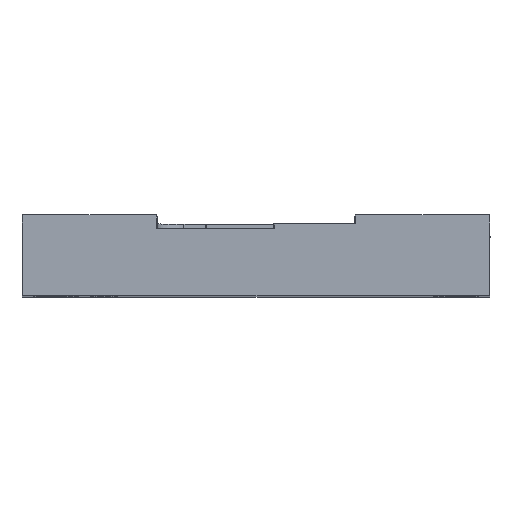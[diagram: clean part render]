
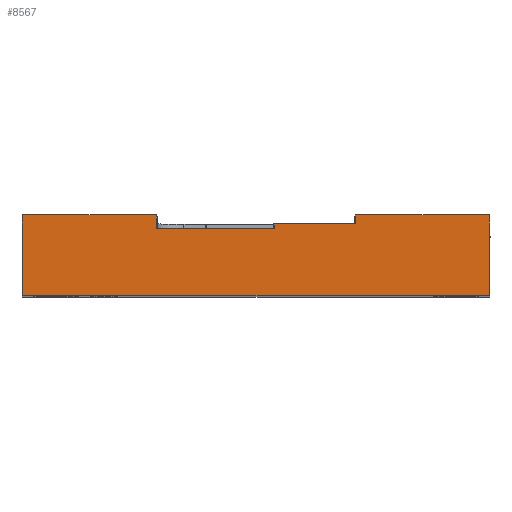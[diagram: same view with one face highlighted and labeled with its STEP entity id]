
A CAD part, top view. The second image highlights one B-rep face of the part: STEP entity #8567.
In plain terms, the highlighted planar face has unit normal (0, 0, 1).
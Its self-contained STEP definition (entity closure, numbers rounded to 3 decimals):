
#130 = CARTESIAN_POINT ( 'NONE',  ( 279.184, 50.775, 129.073 ) ) ;
#143 = VERTEX_POINT ( 'NONE', #6927 ) ;
#146 = ORIENTED_EDGE ( 'NONE', *, *, #5193, .T. ) ;
#622 = LINE ( 'NONE', #5822, #929 ) ;
#695 = VERTEX_POINT ( 'NONE', #5704 ) ;
#777 = EDGE_CURVE ( 'NONE', #8335, #143, #622, .T. ) ;
#798 = LINE ( 'NONE', #2367, #1032 ) ;
#914 = EDGE_LOOP ( 'NONE', ( #4259, #146, #2382, #4649, #6474, #1571, #2142, #3582, #4985, #8901 ) ) ;
#929 = VECTOR ( 'NONE', #5796, 1000. ) ;
#1032 = VECTOR ( 'NONE', #3798, 1000. ) ;
#1098 = VERTEX_POINT ( 'NONE', #6332 ) ;
#1377 = CARTESIAN_POINT ( 'NONE',  ( 302.984, 52.275, 129.073 ) ) ;
#1440 = LINE ( 'NONE', #1377, #4127 ) ;
#1508 = EDGE_CURVE ( 'NONE', #695, #4347, #1440, .T. ) ;
#1538 = LINE ( 'NONE', #2259, #7471 ) ;
#1571 = ORIENTED_EDGE ( 'NONE', *, *, #777, .F. ) ;
#1693 = EDGE_CURVE ( 'NONE', #2814, #8051, #5292, .T. ) ;
#1722 = EDGE_CURVE ( 'NONE', #143, #2005, #7680, .T. ) ;
#2005 = VERTEX_POINT ( 'NONE', #7376 ) ;
#2039 = DIRECTION ( 'NONE',  ( -1., 0., 0. ) ) ;
#2142 = ORIENTED_EDGE ( 'NONE', *, *, #3572, .F. ) ;
#2191 = CARTESIAN_POINT ( 'NONE',  ( 288.184, 52.275, 129.073 ) ) ;
#2259 = CARTESIAN_POINT ( 'NONE',  ( 265.984, 52.275, 129.073 ) ) ;
#2367 = CARTESIAN_POINT ( 'NONE',  ( 279.184, 52.275, 129.073 ) ) ;
#2382 = ORIENTED_EDGE ( 'NONE', *, *, #3555, .T. ) ;
#2393 = VECTOR ( 'NONE', #6426, 1000. ) ;
#2569 = DIRECTION ( 'NONE',  ( -1., 0., 0. ) ) ;
#2814 = VERTEX_POINT ( 'NONE', #4967 ) ;
#2866 = DIRECTION ( 'NONE',  ( 0., -1., 0. ) ) ;
#2888 = CARTESIAN_POINT ( 'NONE',  ( 302.984, 52.275, 129.073 ) ) ;
#2908 = CARTESIAN_POINT ( 'NONE',  ( 288.184, 52.275, 129.073 ) ) ;
#3149 = FACE_OUTER_BOUND ( 'NONE', #914, .T. ) ;
#3220 = VECTOR ( 'NONE', #6308, 1000. ) ;
#3555 = EDGE_CURVE ( 'NONE', #1098, #8395, #1538, .T. ) ;
#3572 = EDGE_CURVE ( 'NONE', #695, #8335, #7787, .T. ) ;
#3582 = ORIENTED_EDGE ( 'NONE', *, *, #1508, .T. ) ;
#3598 = DIRECTION ( 'NONE',  ( -1., 0., 0. ) ) ;
#3738 = VECTOR ( 'NONE', #3598, 1000. ) ;
#3798 = DIRECTION ( 'NONE',  ( 0., -1., 0. ) ) ;
#4127 = VECTOR ( 'NONE', #2039, 1000. ) ;
#4259 = ORIENTED_EDGE ( 'NONE', *, *, #7137, .T. ) ;
#4347 = VERTEX_POINT ( 'NONE', #2908 ) ;
#4528 = DIRECTION ( 'NONE',  ( 0., 1., 0. ) ) ;
#4649 = ORIENTED_EDGE ( 'NONE', *, *, #6709, .T. ) ;
#4799 = EDGE_CURVE ( 'NONE', #4347, #2814, #8504, .T. ) ;
#4967 = CARTESIAN_POINT ( 'NONE',  ( 288.184, 51.275, 129.073 ) ) ;
#4982 = DIRECTION ( 'NONE',  ( 0., 0., 1. ) ) ;
#4985 = ORIENTED_EDGE ( 'NONE', *, *, #4799, .T. ) ;
#5020 = CARTESIAN_POINT ( 'NONE',  ( 302.984, 52.275, 129.073 ) ) ;
#5193 = EDGE_CURVE ( 'NONE', #5593, #1098, #8087, .T. ) ;
#5292 = LINE ( 'NONE', #6218, #3220 ) ;
#5295 = CARTESIAN_POINT ( 'NONE',  ( 302.984, 47.775, 129.073 ) ) ;
#5302 = AXIS2_PLACEMENT_3D ( 'NONE', #5020, #4982, #5679 ) ;
#5316 = VECTOR ( 'NONE', #6536, 1000. ) ;
#5593 = VERTEX_POINT ( 'NONE', #130 ) ;
#5595 = VECTOR ( 'NONE', #2569, 1000. ) ;
#5679 = DIRECTION ( 'NONE',  ( 0., -1., 0. ) ) ;
#5704 = CARTESIAN_POINT ( 'NONE',  ( 302.984, 52.275, 129.073 ) ) ;
#5737 = PLANE ( 'NONE',  #5302 ) ;
#5791 = CARTESIAN_POINT ( 'NONE',  ( 302.984, 43.275, 129.073 ) ) ;
#5796 = DIRECTION ( 'NONE',  ( -1., 0., 0. ) ) ;
#5822 = CARTESIAN_POINT ( 'NONE',  ( 251.184, 43.275, 129.073 ) ) ;
#5900 = LINE ( 'NONE', #2888, #3738 ) ;
#6218 = CARTESIAN_POINT ( 'NONE',  ( 302.984, 51.275, 129.073 ) ) ;
#6308 = DIRECTION ( 'NONE',  ( -1., 0., 0. ) ) ;
#6332 = CARTESIAN_POINT ( 'NONE',  ( 265.984, 50.775, 129.073 ) ) ;
#6426 = DIRECTION ( 'NONE',  ( 0., 1., 0. ) ) ;
#6474 = ORIENTED_EDGE ( 'NONE', *, *, #1722, .F. ) ;
#6536 = DIRECTION ( 'NONE',  ( 0., -1., 0. ) ) ;
#6695 = CARTESIAN_POINT ( 'NONE',  ( 302.984, 50.775, 129.073 ) ) ;
#6709 = EDGE_CURVE ( 'NONE', #8395, #2005, #5900, .T. ) ;
#6927 = CARTESIAN_POINT ( 'NONE',  ( 251.184, 43.275, 129.073 ) ) ;
#7137 = EDGE_CURVE ( 'NONE', #8051, #5593, #798, .T. ) ;
#7301 = CARTESIAN_POINT ( 'NONE',  ( 265.984, 52.275, 129.073 ) ) ;
#7376 = CARTESIAN_POINT ( 'NONE',  ( 251.184, 52.275, 129.073 ) ) ;
#7425 = CARTESIAN_POINT ( 'NONE',  ( 279.184, 51.275, 129.073 ) ) ;
#7471 = VECTOR ( 'NONE', #4528, 1000. ) ;
#7567 = CARTESIAN_POINT ( 'NONE',  ( 251.184, 47.775, 129.073 ) ) ;
#7680 = LINE ( 'NONE', #7567, #2393 ) ;
#7787 = LINE ( 'NONE', #5295, #5316 ) ;
#7984 = VECTOR ( 'NONE', #2866, 1000. ) ;
#8051 = VERTEX_POINT ( 'NONE', #7425 ) ;
#8087 = LINE ( 'NONE', #6695, #5595 ) ;
#8335 = VERTEX_POINT ( 'NONE', #5791 ) ;
#8395 = VERTEX_POINT ( 'NONE', #7301 ) ;
#8504 = LINE ( 'NONE', #2191, #7984 ) ;
#8567 = ADVANCED_FACE ( 'NONE', ( #3149 ), #5737, .T. ) ;
#8901 = ORIENTED_EDGE ( 'NONE', *, *, #1693, .T. ) ;
